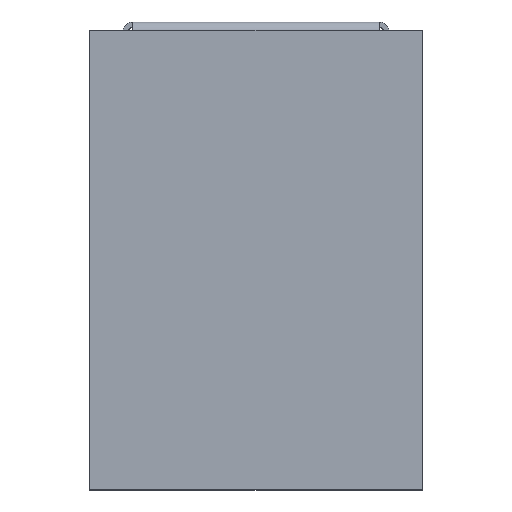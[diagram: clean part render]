
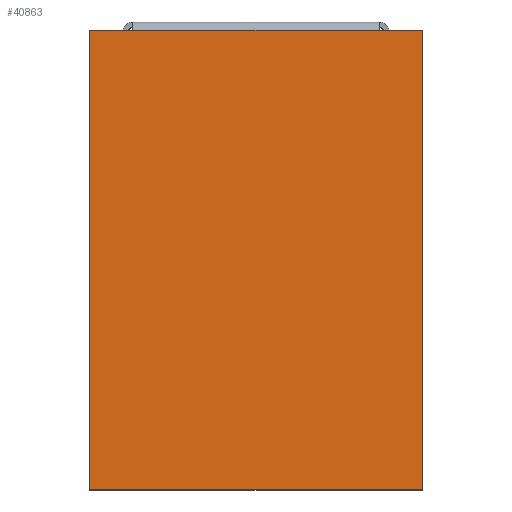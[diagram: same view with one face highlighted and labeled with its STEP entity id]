
A CAD part, top view. The second image highlights one B-rep face of the part: STEP entity #40863.
In plain terms, the highlighted planar face has unit normal (0, 0, 1).
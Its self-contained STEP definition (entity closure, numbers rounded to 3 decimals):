
#2886=LINE('',#125535,#4093);
#2887=LINE('',#125537,#4094);
#2888=LINE('',#125539,#4095);
#2889=LINE('',#125540,#4096);
#4093=VECTOR('',#55243,10.);
#4094=VECTOR('',#55244,10.);
#4095=VECTOR('',#55245,10.);
#4096=VECTOR('',#55246,10.);
#8402=FACE_OUTER_BOUND('',#10980,.T.);
#10980=EDGE_LOOP('',(#35280,#35281,#35282,#35283));
#17746=VERTEX_POINT('',#125533);
#17747=VERTEX_POINT('',#125534);
#17748=VERTEX_POINT('',#125536);
#17749=VERTEX_POINT('',#125538);
#23598=EDGE_CURVE('',#17746,#17747,#2886,.T.);
#23599=EDGE_CURVE('',#17748,#17747,#2887,.T.);
#23600=EDGE_CURVE('',#17749,#17748,#2888,.T.);
#23601=EDGE_CURVE('',#17746,#17749,#2889,.T.);
#35280=ORIENTED_EDGE('',*,*,#23598,.T.);
#35281=ORIENTED_EDGE('',*,*,#23599,.F.);
#35282=ORIENTED_EDGE('',*,*,#23600,.F.);
#35283=ORIENTED_EDGE('',*,*,#23601,.F.);
#36005=PLANE('',#45314);
#40863=ADVANCED_FACE('',(#8402),#36005,.T.);
#45314=AXIS2_PLACEMENT_3D('',#125532,#55241,#55242);
#55241=DIRECTION('center_axis',(0.,0.,1.));
#55242=DIRECTION('ref_axis',(1.,0.,0.));
#55243=DIRECTION('',(0.,1.,0.));
#55244=DIRECTION('',(1.,0.,0.));
#55245=DIRECTION('',(0.,1.,0.));
#55246=DIRECTION('',(-1.,0.,0.));
#125532=CARTESIAN_POINT('Origin',(-50.,0.,50.));
#125533=CARTESIAN_POINT('',(50.,-69.,50.));
#125534=CARTESIAN_POINT('',(50.,69.,50.));
#125535=CARTESIAN_POINT('',(50.,0.,50.));
#125536=CARTESIAN_POINT('',(-50.,69.,50.));
#125537=CARTESIAN_POINT('',(-50.,69.,50.));
#125538=CARTESIAN_POINT('',(-50.,-69.,50.));
#125539=CARTESIAN_POINT('',(-50.,0.,50.));
#125540=CARTESIAN_POINT('',(-50.,-69.,50.));
